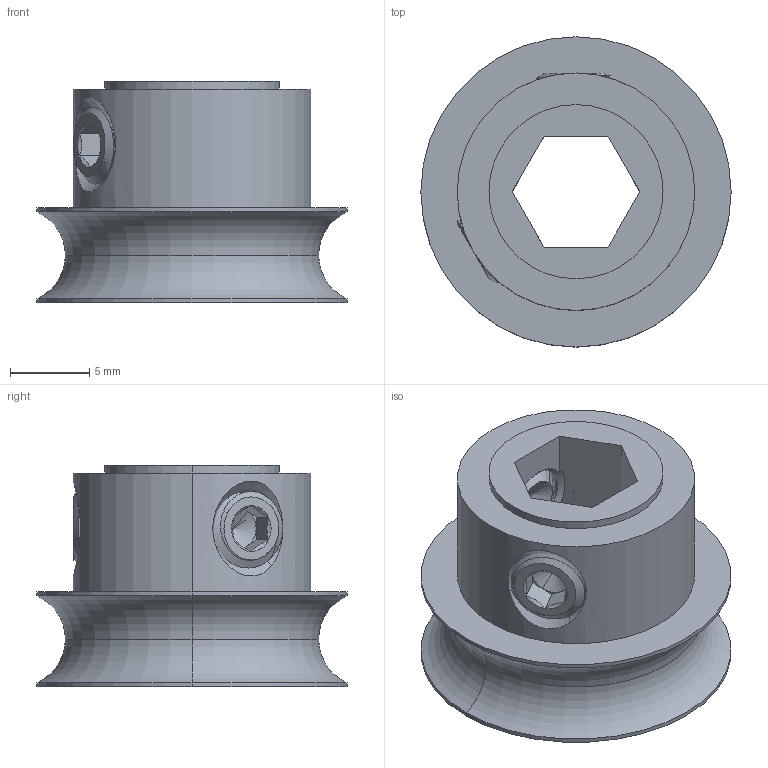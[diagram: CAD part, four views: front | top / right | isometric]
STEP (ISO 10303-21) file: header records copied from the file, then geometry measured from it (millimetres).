
FILE_DESCRIPTION (( 'STEP AP203' ), '1' );
FILE_NAME ('3401-4008-0016 assembly.STEP', '2023-02-07T17:07:36', ( '' ), ( '' ), 'SwSTEP 2.0', 'SolidWorks 2016', '' );
FILE_SCHEMA (( 'CONFIG_CONTROL_DESIGN' ));
Length unit declared in the file: millimetre
Products named in the file (3): 2806-0005-0004_91390A117; 3401-4008-0016 assembly; 3401-4008-0016
Assembly tree (3 placements, depth 2):
  3401-4008-0016 assembly
    3401-4008-0016
    2806-0005-0004_91390A117  x2
Bounding box: 19.6 x 19.6 x 14 mm (x, y, z)
Volume: 2144.5 mm3; surface area: 1976.8 mm2
Topology: 3 solids, 3 shells, 165 faces, 419 edges, 258 vertices
Faces by surface type: cylinder 67, cone 38, plane 38, bspline 18, torus 4
Entity records: 15364 total; most frequent: CARTESIAN_POINT 12434, ORIENTED_EDGE 642, DIRECTION 447, EDGE_CURVE 321, VERTEX_POINT 205, AXIS2_PLACEMENT_3D 171, EDGE_LOOP 136, FACE_OUTER_BOUND 125
